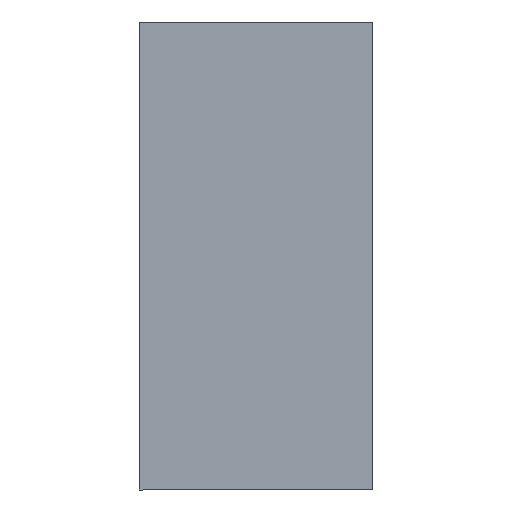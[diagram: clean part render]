
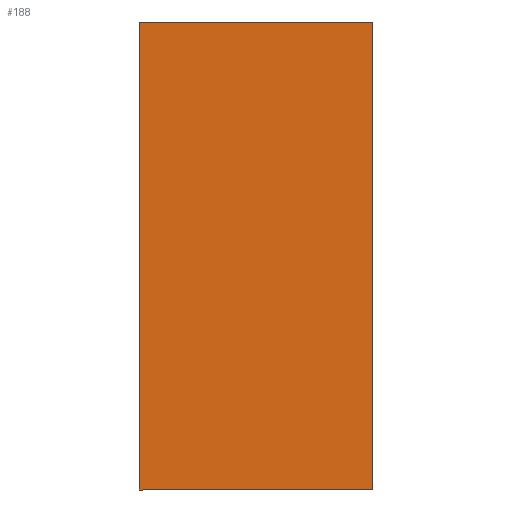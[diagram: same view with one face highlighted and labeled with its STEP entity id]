
A CAD part, left-side view. The second image highlights one B-rep face of the part: STEP entity #188.
In plain terms, the highlighted planar face has unit normal (-1, 0, 0).
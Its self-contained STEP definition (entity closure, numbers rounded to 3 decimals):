
#4 = CARTESIAN_POINT ( 'NONE',  ( -152., 24., -24. ) ) ;
#5 = LINE ( 'NONE', #76, #49 ) ;
#14 = CARTESIAN_POINT ( 'NONE',  ( -152., 0., -24. ) ) ;
#24 = CARTESIAN_POINT ( 'NONE',  ( -152., 24., -24. ) ) ;
#25 = ORIENTED_EDGE ( 'NONE', *, *, #121, .F. ) ;
#26 = CARTESIAN_POINT ( 'NONE',  ( -152., 24., 24. ) ) ;
#30 = CARTESIAN_POINT ( 'NONE',  ( -152., 0., 24. ) ) ;
#38 = VECTOR ( 'NONE', #95, 1000. ) ;
#49 = VECTOR ( 'NONE', #226, 1000. ) ;
#62 = DIRECTION ( 'NONE',  ( 0., 0., -1. ) ) ;
#63 = VECTOR ( 'NONE', #75, 1000. ) ;
#66 = ORIENTED_EDGE ( 'NONE', *, *, #162, .F. ) ;
#73 = VERTEX_POINT ( 'NONE', #26 ) ;
#75 = DIRECTION ( 'NONE',  ( 0., 0., 1. ) ) ;
#76 = CARTESIAN_POINT ( 'NONE',  ( -152., 24., 24. ) ) ;
#77 = EDGE_CURVE ( 'NONE', #218, #168, #189, .T. ) ;
#90 = VECTOR ( 'NONE', #133, 1000. ) ;
#95 = DIRECTION ( 'NONE',  ( 0., 0., 1. ) ) ;
#116 = CARTESIAN_POINT ( 'NONE',  ( -152., 24., 24. ) ) ;
#121 = EDGE_CURVE ( 'NONE', #143, #73, #136, .T. ) ;
#124 = EDGE_CURVE ( 'NONE', #143, #218, #223, .T. ) ;
#125 = DIRECTION ( 'NONE',  ( 1., 0., 0. ) ) ;
#133 = DIRECTION ( 'NONE',  ( 0., -1., 0. ) ) ;
#135 = CARTESIAN_POINT ( 'NONE',  ( -152., 0., 24. ) ) ;
#136 = LINE ( 'NONE', #116, #38 ) ;
#143 = VERTEX_POINT ( 'NONE', #24 ) ;
#162 = EDGE_CURVE ( 'NONE', #73, #168, #5, .T. ) ;
#167 = ORIENTED_EDGE ( 'NONE', *, *, #124, .T. ) ;
#168 = VERTEX_POINT ( 'NONE', #30 ) ;
#171 = EDGE_LOOP ( 'NONE', ( #228, #66, #25, #167 ) ) ;
#175 = CARTESIAN_POINT ( 'NONE',  ( -152., 24., 24. ) ) ;
#185 = AXIS2_PLACEMENT_3D ( 'NONE', #175, #125, #62 ) ;
#188 = ADVANCED_FACE ( 'NONE', ( #195 ), #233, .F. ) ;
#189 = LINE ( 'NONE', #135, #63 ) ;
#195 = FACE_OUTER_BOUND ( 'NONE', #171, .T. ) ;
#218 = VERTEX_POINT ( 'NONE', #14 ) ;
#223 = LINE ( 'NONE', #4, #90 ) ;
#226 = DIRECTION ( 'NONE',  ( 0., -1., 0. ) ) ;
#228 = ORIENTED_EDGE ( 'NONE', *, *, #77, .T. ) ;
#233 = PLANE ( 'NONE',  #185 ) ;
